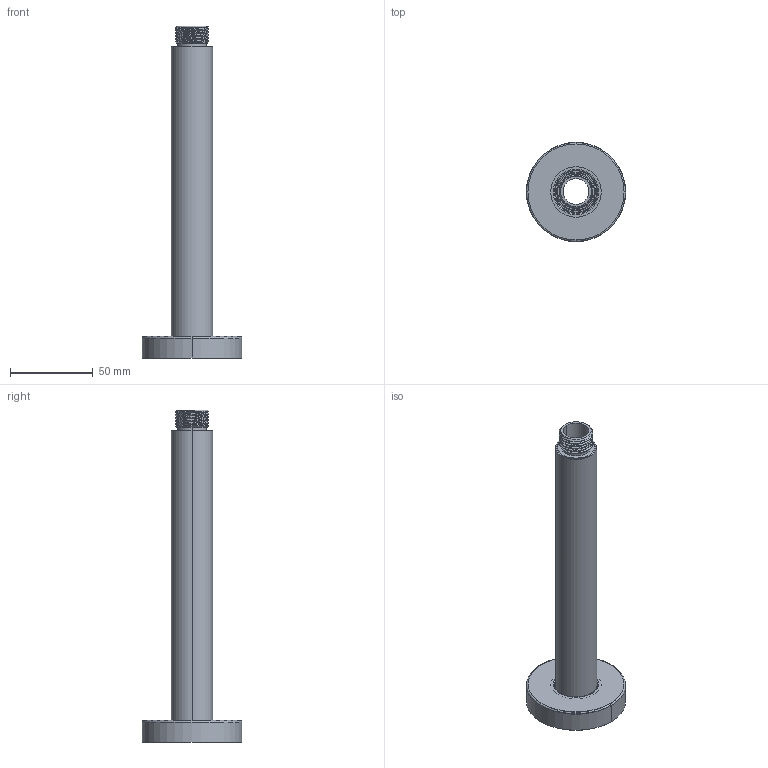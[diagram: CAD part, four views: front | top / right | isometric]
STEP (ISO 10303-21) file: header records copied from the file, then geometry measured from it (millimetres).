
FILE_DESCRIPTION((''),'2;1');
FILE_NAME('NB300_ASM','2021-07-10T',('Administrator'),(''),'PRO/ENGINEER BY PARAMETRIC TECHNOLOGY CORPORATION, 2009440','PRO/ENGINEER BY PARAMETRIC TECHNOLOGY CORPORATION, 2009440','');
FILE_SCHEMA(('CONFIG_CONTROL_DESIGN'));
Length unit declared in the file: millimetre
Products named in the file (7): JG; BD25ZTHJZJ; 2; D130_ZSG; D130_JD; D450-ZSG_ASM; NB300_ASM
Assembly tree (6 placements, depth 3):
  NB300_ASM
    JG
    BD25ZTHJZJ
    2
    D450-ZSG_ASM
      D130_ZSG
      D130_JD
Bounding box: 60 x 60 x 200.5 mm (x, y, z)
Volume: 18592.7 mm3; surface area: 45240.3 mm2
Topology: 5 solids, 5 shells, 114 faces, 264 edges, 163 vertices
Faces by surface type: cylinder 40, cone 28, torus 18, bspline 15, plane 13
Entity records: 7357 total; most frequent: CARTESIAN_POINT 4653, DIRECTION 547, ORIENTED_EDGE 528, EDGE_CURVE 264, AXIS2_PLACEMENT_3D 235, VERTEX_POINT 163, EDGE_LOOP 127, CIRCLE 121
